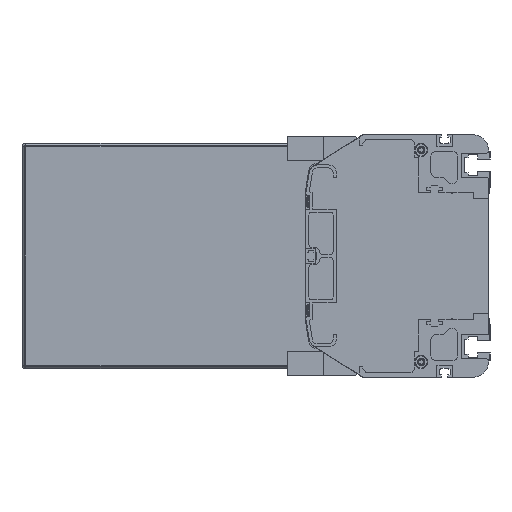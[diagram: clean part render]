
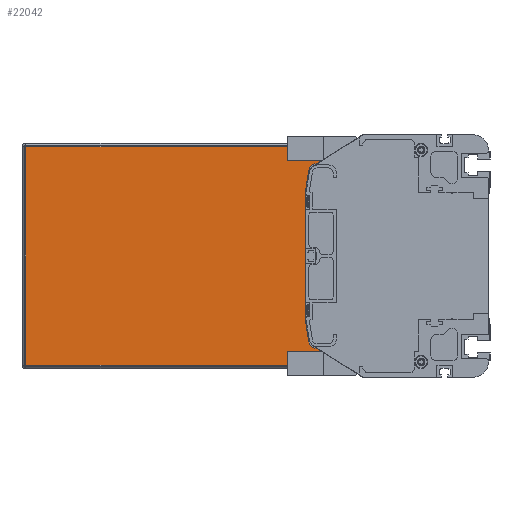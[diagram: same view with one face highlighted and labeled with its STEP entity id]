
A CAD part, left-side view. The second image highlights one B-rep face of the part: STEP entity #22042.
In plain terms, the highlighted planar face has unit normal (-1, 0, 0).
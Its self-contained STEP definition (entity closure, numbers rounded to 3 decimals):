
#585=DIRECTION('',(0.,-1.,0.));
#586=VECTOR('',#585,220.5);
#587=CARTESIAN_POINT('',(2086.5,306.5,-72.));
#588=LINE('',#587,#586);
#791=DIRECTION('',(0.,0.,-1.));
#792=VECTOR('',#791,11.);
#793=CARTESIAN_POINT('',(2086.5,86.,-61.));
#794=LINE('',#793,#792);
#800=DIRECTION('',(0.,0.,-1.));
#801=VECTOR('',#800,11.);
#802=CARTESIAN_POINT('',(2086.5,86.,72.));
#803=LINE('',#802,#801);
#809=CARTESIAN_POINT('',(2086.5,114.728,56.));
#810=DIRECTION('',(-1.,0.,0.));
#811=DIRECTION('',(0.,0.,1.));
#812=AXIS2_PLACEMENT_3D('',#809,#810,#811);
#814=DIRECTION('',(0.,0.156,-0.988));
#815=VECTOR('',#814,14.963);
#816=CARTESIAN_POINT('',(2086.5,119.666,56.78));
#817=LINE('',#816,#815);
#818=DIRECTION('',(0.,-0.156,-0.988));
#819=VECTOR('',#818,14.963);
#820=CARTESIAN_POINT('',(2086.5,122.,-42.));
#821=LINE('',#820,#819);
#822=CARTESIAN_POINT('',(2086.5,114.728,-56.));
#823=DIRECTION('',(-1.,0.,0.));
#824=DIRECTION('',(0.,0.988,-0.156));
#825=AXIS2_PLACEMENT_3D('',#822,#823,#824);
#831=DIRECTION('',(0.,0.,-1.));
#832=VECTOR('',#831,144.);
#833=CARTESIAN_POINT('',(2086.5,306.5,72.));
#834=LINE('',#833,#832);
#921=DIRECTION('',(0.,1.,0.));
#922=VECTOR('',#921,220.5);
#923=CARTESIAN_POINT('',(2086.5,86.,72.));
#924=LINE('',#923,#922);
#1208=DIRECTION('',(0.,-1.,0.));
#1209=VECTOR('',#1208,28.728);
#1210=CARTESIAN_POINT('',(2086.5,114.728,61.));
#1211=LINE('',#1210,#1209);
#10584=DIRECTION('',(0.,1.,0.));
#10585=VECTOR('',#10584,28.728);
#10586=CARTESIAN_POINT('',(2086.5,86.,-61.));
#10587=LINE('',#10586,#10585);
#10604=DIRECTION('',(0.,0.,1.));
#10605=VECTOR('',#10604,84.);
#10606=CARTESIAN_POINT('',(2086.5,122.,-42.));
#10607=LINE('',#10606,#10605);
#17056=CARTESIAN_POINT('',(2086.5,306.5,-72.));
#17057=CARTESIAN_POINT('',(2086.5,86.,-72.));
#17058=VERTEX_POINT('',#17056);
#17059=VERTEX_POINT('',#17057);
#17060=CARTESIAN_POINT('',(2086.5,86.,-61.));
#17061=VERTEX_POINT('',#17060);
#17062=CARTESIAN_POINT('',(2086.5,114.728,-61.));
#17063=VERTEX_POINT('',#17062);
#17064=CARTESIAN_POINT('',(2086.5,119.666,-56.78));
#17065=VERTEX_POINT('',#17064);
#17066=CARTESIAN_POINT('',(2086.5,122.,-42.));
#17067=VERTEX_POINT('',#17066);
#17068=CARTESIAN_POINT('',(2086.5,122.,42.));
#17069=VERTEX_POINT('',#17068);
#17070=CARTESIAN_POINT('',(2086.5,119.666,56.78));
#17071=VERTEX_POINT('',#17070);
#17072=CARTESIAN_POINT('',(2086.5,114.728,61.));
#17073=VERTEX_POINT('',#17072);
#17074=CARTESIAN_POINT('',(2086.5,86.,61.));
#17075=VERTEX_POINT('',#17074);
#17076=CARTESIAN_POINT('',(2086.5,86.,72.));
#17077=VERTEX_POINT('',#17076);
#17078=CARTESIAN_POINT('',(2086.5,306.5,72.));
#17079=VERTEX_POINT('',#17078);
#22014=CARTESIAN_POINT('',(2086.5,196.25,0.));
#22015=DIRECTION('',(1.,0.,0.));
#22016=DIRECTION('',(0.,0.,-1.));
#22017=AXIS2_PLACEMENT_3D('',#22014,#22015,#22016);
#22018=PLANE('',#22017);
#22019=ORIENTED_EDGE('',*,*,#21569,.F.);
#22021=ORIENTED_EDGE('',*,*,#22020,.F.);
#22023=ORIENTED_EDGE('',*,*,#22022,.F.);
#22024=ORIENTED_EDGE('',*,*,#22007,.T.);
#22026=ORIENTED_EDGE('',*,*,#22025,.F.);
#22028=ORIENTED_EDGE('',*,*,#22027,.T.);
#22030=ORIENTED_EDGE('',*,*,#22029,.T.);
#22032=ORIENTED_EDGE('',*,*,#22031,.F.);
#22034=ORIENTED_EDGE('',*,*,#22033,.T.);
#22036=ORIENTED_EDGE('',*,*,#22035,.T.);
#22038=ORIENTED_EDGE('',*,*,#22037,.F.);
#22039=ORIENTED_EDGE('',*,*,#21975,.T.);
#22040=EDGE_LOOP('',(#22019,#22021,#22023,#22024,#22026,#22028,#22030,#22032,
#22034,#22036,#22038,#22039));
#22041=FACE_OUTER_BOUND('',#22040,.F.);
#22042=ADVANCED_FACE('',(#22041),#22018,.F.);
#813=CIRCLE('',#812,5.);
#826=CIRCLE('',#825,5.);
#21569=EDGE_CURVE('',#17058,#17059,#588,.T.);
#21975=EDGE_CURVE('',#17061,#17059,#794,.T.);
#22007=EDGE_CURVE('',#17077,#17075,#803,.T.);
#22020=EDGE_CURVE('',#17079,#17058,#834,.T.);
#22022=EDGE_CURVE('',#17077,#17079,#924,.T.);
#22025=EDGE_CURVE('',#17073,#17075,#1211,.T.);
#22027=EDGE_CURVE('',#17073,#17071,#813,.T.);
#22029=EDGE_CURVE('',#17071,#17069,#817,.T.);
#22031=EDGE_CURVE('',#17067,#17069,#10607,.T.);
#22033=EDGE_CURVE('',#17067,#17065,#821,.T.);
#22035=EDGE_CURVE('',#17065,#17063,#826,.T.);
#22037=EDGE_CURVE('',#17061,#17063,#10587,.T.);
